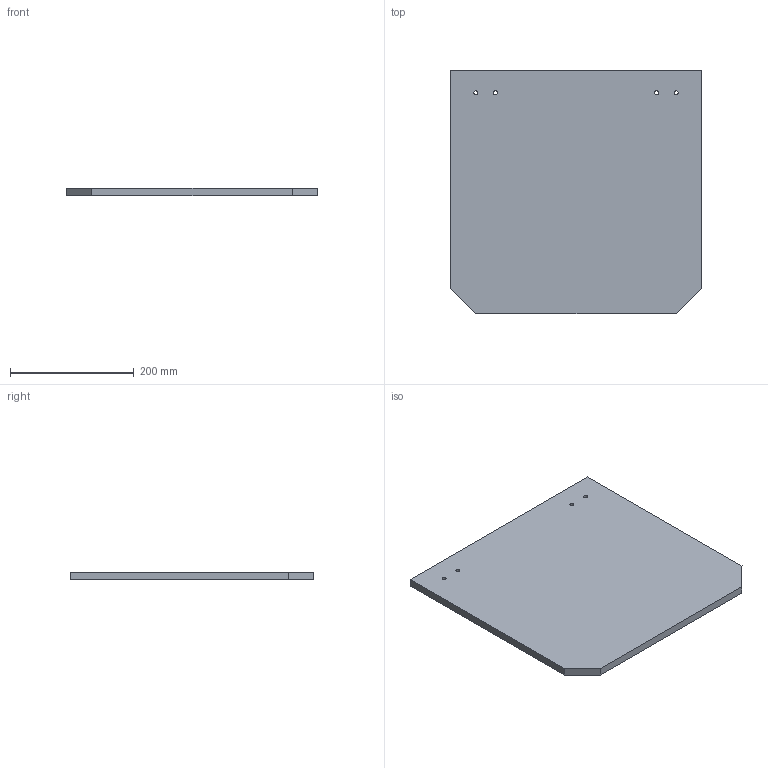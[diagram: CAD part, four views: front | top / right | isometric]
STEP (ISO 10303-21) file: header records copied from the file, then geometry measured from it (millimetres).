
FILE_DESCRIPTION(/* description */ (''),/* implementation_level */ '2;1');
FILE_NAME(/* name */ 'Cartex - panneau dessus',/* time_stamp */ '2024-11-29T00:14:41-05:00',/* author */ (''),/* organization */ (''),/* preprocessor_version */ 'ST-DEVELOPER v19.2',/* originating_system */ 'Rhino 8.13',/* authorisation */ '');
FILE_SCHEMA (('CONFIG_CONTROL_DESIGN'));
Length unit declared in the file: millimetre
Products named in the file (1): Document
Bounding box: 406.4 x 393.7 x 12.7 mm (x, y, z)
Volume: 2002091.7 mm3; surface area: 337789.6 mm2
Topology: 1 solids, 1 shells, 19 faces, 48 edges, 32 vertices
Faces by surface type: cylinder 9, plane 8, bspline 2
Entity records: 795 total; most frequent: CARTESIAN_POINT 291, ORIENTED_EDGE 96, DIRECTION 57, EDGE_CURVE 48, AXIS2_PLACEMENT_3D 37, VERTEX_POINT 32, EDGE_LOOP 28, B_SPLINE_CURVE_WITH_KNOTS 20
